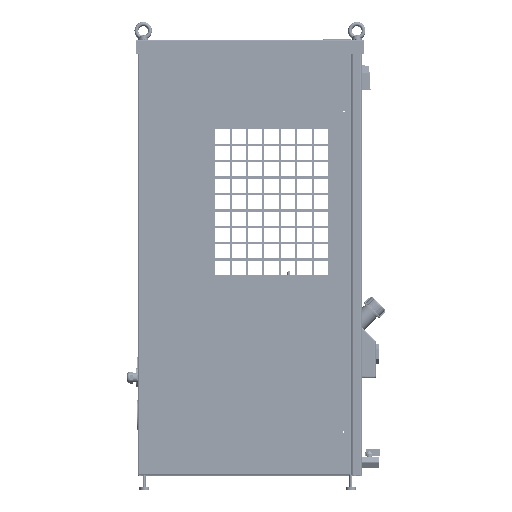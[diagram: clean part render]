
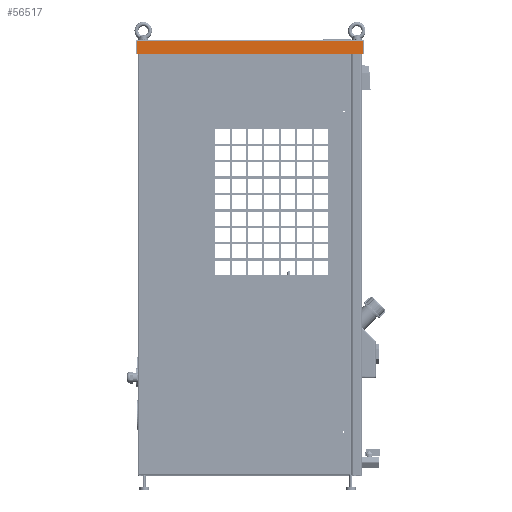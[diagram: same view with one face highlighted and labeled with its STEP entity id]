
A CAD part, top view. The second image highlights one B-rep face of the part: STEP entity #56517.
In plain terms, the highlighted planar face has unit normal (0, 0, 1) as drawn and (1, 0, 0) by its records, which use the part's own axes.
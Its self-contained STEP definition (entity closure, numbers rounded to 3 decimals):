
#816 = CARTESIAN_POINT ( 'NONE',  ( 230., 233.843, 2.4 ) ) ;
#2606 = CARTESIAN_POINT ( 'NONE',  ( 230., 233.843, 30. ) ) ;
#9960 = CARTESIAN_POINT ( 'NONE',  ( 230., -233.843, 1.2 ) ) ;
#11278 = LINE ( 'NONE', #159102, #61546 ) ;
#18509 = CARTESIAN_POINT ( 'NONE',  ( 230., -235.75, 30. ) ) ;
#29645 = VERTEX_POINT ( 'NONE', #816 ) ;
#35536 = DIRECTION ( 'NONE',  ( -1., 0., 0. ) ) ;
#41358 = CARTESIAN_POINT ( 'NONE',  ( 230., -235.75, 30. ) ) ;
#50864 = LINE ( 'NONE', #41358, #135290 ) ;
#53756 = VERTEX_POINT ( 'NONE', #101084 ) ;
#56517 = ADVANCED_FACE ( 'NONE', ( #151117 ), #102674, .F. ) ;
#58317 = DIRECTION ( 'NONE',  ( 0., -1., 0. ) ) ;
#61546 = VECTOR ( 'NONE', #176067, 1000. ) ;
#85324 = LINE ( 'NONE', #9960, #174957 ) ;
#97019 = VERTEX_POINT ( 'NONE', #194521 ) ;
#98358 = ORIENTED_EDGE ( 'NONE', *, *, #194132, .F. ) ;
#99355 = ORIENTED_EDGE ( 'NONE', *, *, #172074, .T. ) ;
#101084 = CARTESIAN_POINT ( 'NONE',  ( 230., 233.843, 30. ) ) ;
#102674 = PLANE ( 'NONE',  #134772 ) ;
#116250 = VECTOR ( 'NONE', #120723, 1000. ) ;
#120723 = DIRECTION ( 'NONE',  ( 0., 0., 1. ) ) ;
#128080 = DIRECTION ( 'NONE',  ( 0., 0., 1. ) ) ;
#134772 = AXIS2_PLACEMENT_3D ( 'NONE', #18509, #35536, #153536 ) ;
#135290 = VECTOR ( 'NONE', #58317, 1000. ) ;
#137838 = EDGE_CURVE ( 'NONE', #29645, #53756, #161104, .T. ) ;
#151117 = FACE_OUTER_BOUND ( 'NONE', #203208, .T. ) ;
#153536 = DIRECTION ( 'NONE',  ( 0., 0., 1. ) ) ;
#156768 = EDGE_CURVE ( 'NONE', #97019, #209061, #85324, .T. ) ;
#159102 = CARTESIAN_POINT ( 'NONE',  ( 230., -235.75, 2.4 ) ) ;
#161104 = LINE ( 'NONE', #2606, #116250 ) ;
#163319 = CARTESIAN_POINT ( 'NONE',  ( 230., -233.843, 30. ) ) ;
#172074 = EDGE_CURVE ( 'NONE', #53756, #209061, #50864, .T. ) ;
#174957 = VECTOR ( 'NONE', #128080, 1000. ) ;
#176067 = DIRECTION ( 'NONE',  ( 0., -1., 0. ) ) ;
#176190 = ORIENTED_EDGE ( 'NONE', *, *, #137838, .T. ) ;
#187832 = ORIENTED_EDGE ( 'NONE', *, *, #156768, .F. ) ;
#194132 = EDGE_CURVE ( 'NONE', #29645, #97019, #11278, .T. ) ;
#194521 = CARTESIAN_POINT ( 'NONE',  ( 230., -233.843, 2.4 ) ) ;
#203208 = EDGE_LOOP ( 'NONE', ( #98358, #176190, #99355, #187832 ) ) ;
#209061 = VERTEX_POINT ( 'NONE', #163319 ) ;
